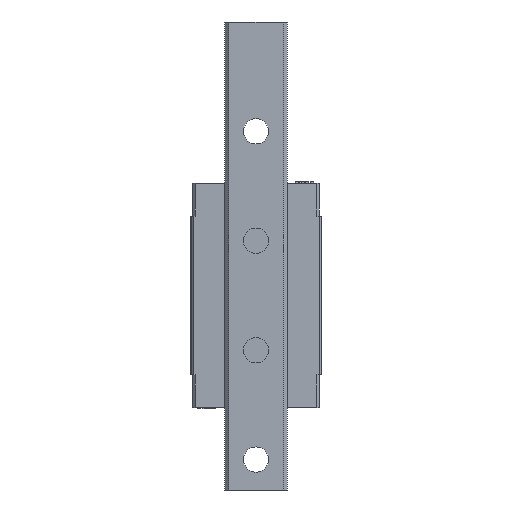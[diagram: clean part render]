
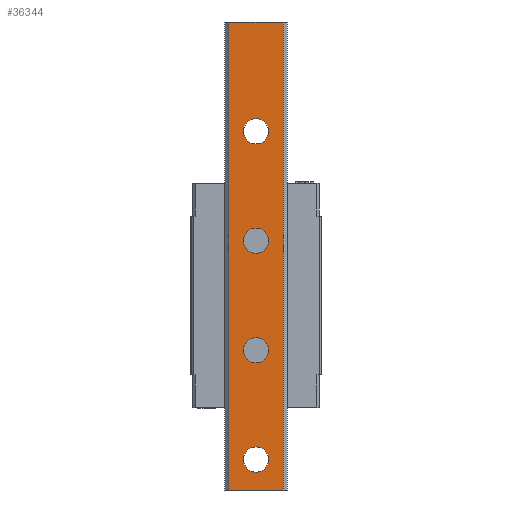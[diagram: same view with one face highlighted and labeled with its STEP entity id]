
A CAD part, front view. The second image highlights one B-rep face of the part: STEP entity #36344.
In plain terms, the highlighted planar face has unit normal (0, -1, 0).
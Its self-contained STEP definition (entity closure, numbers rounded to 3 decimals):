
#490 = VERTEX_POINT ( 'NONE', #6304 ) ;
#665 = EDGE_CURVE ( 'NONE', #8861, #45837, #6081, .T. ) ;
#1372 = DIRECTION ( 'NONE',  ( 0., -1., 0. ) ) ;
#1595 = EDGE_CURVE ( 'NONE', #490, #31680, #28425, .T. ) ;
#1621 = FACE_BOUND ( 'NONE', #22356, .T. ) ;
#2058 = DIRECTION ( 'NONE',  ( 0., 0., -1. ) ) ;
#2869 = DIRECTION ( 'NONE',  ( 0., 1., 0. ) ) ;
#3517 = ORIENTED_EDGE ( 'NONE', *, *, #19787, .T. ) ;
#4322 = CARTESIAN_POINT ( 'NONE',  ( 0., -22., 35.61 ) ) ;
#4765 = DIRECTION ( 'NONE',  ( 0., 0., 1. ) ) ;
#4778 = DIRECTION ( 'NONE',  ( 0., 1., 0. ) ) ;
#5322 = EDGE_LOOP ( 'NONE', ( #29104, #3517 ) ) ;
#5519 = CARTESIAN_POINT ( 'NONE',  ( 0., -22., -44.39 ) ) ;
#5798 = PLANE ( 'NONE',  #13979 ) ;
#5827 = ORIENTED_EDGE ( 'NONE', *, *, #23751, .T. ) ;
#6081 = CIRCLE ( 'NONE', #36777, 4.61 ) ;
#6157 = DIRECTION ( 'NONE',  ( 0., 0., 1. ) ) ;
#6304 = CARTESIAN_POINT ( 'NONE',  ( 10., -22., 71. ) ) ;
#6786 = VERTEX_POINT ( 'NONE', #22234 ) ;
#7937 = DIRECTION ( 'NONE',  ( 0., 0., 1. ) ) ;
#8139 = CARTESIAN_POINT ( 'NONE',  ( 0., -22., 31. ) ) ;
#8457 = LINE ( 'NONE', #22737, #45957 ) ;
#8620 = FACE_OUTER_BOUND ( 'NONE', #25103, .T. ) ;
#8861 = VERTEX_POINT ( 'NONE', #4322 ) ;
#10120 = DIRECTION ( 'NONE',  ( 0., 0., 1. ) ) ;
#10409 = CIRCLE ( 'NONE', #40391, 4.61 ) ;
#11090 = CARTESIAN_POINT ( 'NONE',  ( 0., -22., -9. ) ) ;
#11435 = CARTESIAN_POINT ( 'NONE',  ( 0., -22., -9. ) ) ;
#11442 = CARTESIAN_POINT ( 'NONE',  ( -10., -22., 71. ) ) ;
#12611 = ORIENTED_EDGE ( 'NONE', *, *, #16106, .T. ) ;
#13119 = ORIENTED_EDGE ( 'NONE', *, *, #1595, .T. ) ;
#13393 = CARTESIAN_POINT ( 'NONE',  ( 0., -22., -89. ) ) ;
#13715 = EDGE_CURVE ( 'NONE', #31680, #40574, #8457, .T. ) ;
#13865 = CARTESIAN_POINT ( 'NONE',  ( 0., -22., -49. ) ) ;
#13972 = DIRECTION ( 'NONE',  ( 0., 1., 0. ) ) ;
#13979 = AXIS2_PLACEMENT_3D ( 'NONE', #20046, #1372, #2058 ) ;
#14287 = CARTESIAN_POINT ( 'NONE',  ( 0., -22., -93.61 ) ) ;
#14347 = AXIS2_PLACEMENT_3D ( 'NONE', #13865, #2869, #6157 ) ;
#14403 = VERTEX_POINT ( 'NONE', #32455 ) ;
#15866 = FACE_BOUND ( 'NONE', #18263, .T. ) ;
#16106 = EDGE_CURVE ( 'NONE', #14403, #490, #30286, .T. ) ;
#17507 = EDGE_CURVE ( 'NONE', #30324, #36572, #37366, .T. ) ;
#17690 = CARTESIAN_POINT ( 'NONE',  ( 0., -22., -84.39 ) ) ;
#18263 = EDGE_LOOP ( 'NONE', ( #43614, #39717 ) ) ;
#18677 = DIRECTION ( 'NONE',  ( 0., 1., 0. ) ) ;
#19315 = EDGE_CURVE ( 'NONE', #36572, #30324, #23318, .T. ) ;
#19787 = EDGE_CURVE ( 'NONE', #32871, #43497, #33059, .T. ) ;
#20046 = CARTESIAN_POINT ( 'NONE',  ( -10., -22., -129. ) ) ;
#21957 = DIRECTION ( 'NONE',  ( 0., 0., 1. ) ) ;
#22234 = CARTESIAN_POINT ( 'NONE',  ( 0., -22., -4.39 ) ) ;
#22321 = LINE ( 'NONE', #36191, #35732 ) ;
#22356 = EDGE_LOOP ( 'NONE', ( #26804, #40334 ) ) ;
#22737 = CARTESIAN_POINT ( 'NONE',  ( -10., -22., -129. ) ) ;
#22855 = AXIS2_PLACEMENT_3D ( 'NONE', #28951, #43292, #32517 ) ;
#23318 = CIRCLE ( 'NONE', #14347, 4.61 ) ;
#23751 = EDGE_CURVE ( 'NONE', #30233, #6786, #10409, .T. ) ;
#24013 = AXIS2_PLACEMENT_3D ( 'NONE', #29977, #26910, #7937 ) ;
#24025 = ORIENTED_EDGE ( 'NONE', *, *, #13715, .T. ) ;
#24366 = CIRCLE ( 'NONE', #22855, 4.61 ) ;
#24460 = AXIS2_PLACEMENT_3D ( 'NONE', #11090, #4778, #43704 ) ;
#24467 = EDGE_CURVE ( 'NONE', #43497, #32871, #38956, .T. ) ;
#25103 = EDGE_LOOP ( 'NONE', ( #44610, #12611, #13119, #24025 ) ) ;
#25378 = DIRECTION ( 'NONE',  ( 1., 0., 0. ) ) ;
#26554 = CARTESIAN_POINT ( 'NONE',  ( -10., -22., -100.138 ) ) ;
#26804 = ORIENTED_EDGE ( 'NONE', *, *, #19315, .T. ) ;
#26910 = DIRECTION ( 'NONE',  ( 0., 1., 0. ) ) ;
#28425 = LINE ( 'NONE', #38999, #29726 ) ;
#28951 = CARTESIAN_POINT ( 'NONE',  ( 0., -22., 31. ) ) ;
#29104 = ORIENTED_EDGE ( 'NONE', *, *, #24467, .T. ) ;
#29221 = DIRECTION ( 'NONE',  ( 0., 1., 0. ) ) ;
#29726 = VECTOR ( 'NONE', #32211, 1000. ) ;
#29977 = CARTESIAN_POINT ( 'NONE',  ( 0., -22., -89. ) ) ;
#30233 = VERTEX_POINT ( 'NONE', #40134 ) ;
#30286 = LINE ( 'NONE', #44373, #37064 ) ;
#30324 = VERTEX_POINT ( 'NONE', #35676 ) ;
#31205 = EDGE_LOOP ( 'NONE', ( #39077, #5827 ) ) ;
#31680 = VERTEX_POINT ( 'NONE', #11442 ) ;
#32211 = DIRECTION ( 'NONE',  ( -1., 0., 0. ) ) ;
#32455 = CARTESIAN_POINT ( 'NONE',  ( 10., -22., -100.138 ) ) ;
#32517 = DIRECTION ( 'NONE',  ( 0., 0., 1. ) ) ;
#32651 = EDGE_CURVE ( 'NONE', #45837, #8861, #24366, .T. ) ;
#32871 = VERTEX_POINT ( 'NONE', #14287 ) ;
#33059 = CIRCLE ( 'NONE', #24013, 4.61 ) ;
#33634 = AXIS2_PLACEMENT_3D ( 'NONE', #46086, #13972, #46304 ) ;
#33976 = FACE_BOUND ( 'NONE', #5322, .T. ) ;
#34187 = FACE_BOUND ( 'NONE', #31205, .T. ) ;
#35676 = CARTESIAN_POINT ( 'NONE',  ( 0., -22., -53.61 ) ) ;
#35732 = VECTOR ( 'NONE', #25378, 1000. ) ;
#36191 = CARTESIAN_POINT ( 'NONE',  ( -10., -22., -100.138 ) ) ;
#36344 = ADVANCED_FACE ( 'NONE', ( #33976, #34187, #1621, #15866, #8620 ), #5798, .T. ) ;
#36479 = CARTESIAN_POINT ( 'NONE',  ( 0., -22., 26.39 ) ) ;
#36572 = VERTEX_POINT ( 'NONE', #5519 ) ;
#36604 = DIRECTION ( 'NONE',  ( 0., 0., -1. ) ) ;
#36777 = AXIS2_PLACEMENT_3D ( 'NONE', #8139, #29221, #21957 ) ;
#37064 = VECTOR ( 'NONE', #4765, 1000. ) ;
#37366 = CIRCLE ( 'NONE', #33634, 4.61 ) ;
#37534 = EDGE_CURVE ( 'NONE', #40574, #14403, #22321, .T. ) ;
#38226 = AXIS2_PLACEMENT_3D ( 'NONE', #13393, #42272, #10120 ) ;
#38956 = CIRCLE ( 'NONE', #38226, 4.61 ) ;
#38999 = CARTESIAN_POINT ( 'NONE',  ( -10., -22., 71. ) ) ;
#39077 = ORIENTED_EDGE ( 'NONE', *, *, #45977, .T. ) ;
#39717 = ORIENTED_EDGE ( 'NONE', *, *, #32651, .T. ) ;
#40134 = CARTESIAN_POINT ( 'NONE',  ( 0., -22., -13.61 ) ) ;
#40334 = ORIENTED_EDGE ( 'NONE', *, *, #17507, .T. ) ;
#40391 = AXIS2_PLACEMENT_3D ( 'NONE', #11435, #18677, #40995 ) ;
#40574 = VERTEX_POINT ( 'NONE', #26554 ) ;
#40995 = DIRECTION ( 'NONE',  ( 0., 0., 1. ) ) ;
#42272 = DIRECTION ( 'NONE',  ( 0., 1., 0. ) ) ;
#43292 = DIRECTION ( 'NONE',  ( 0., 1., 0. ) ) ;
#43497 = VERTEX_POINT ( 'NONE', #17690 ) ;
#43614 = ORIENTED_EDGE ( 'NONE', *, *, #665, .T. ) ;
#43704 = DIRECTION ( 'NONE',  ( 0., 0., 1. ) ) ;
#44373 = CARTESIAN_POINT ( 'NONE',  ( 10., -22., -129. ) ) ;
#44610 = ORIENTED_EDGE ( 'NONE', *, *, #37534, .T. ) ;
#45433 = CIRCLE ( 'NONE', #24460, 4.61 ) ;
#45837 = VERTEX_POINT ( 'NONE', #36479 ) ;
#45957 = VECTOR ( 'NONE', #36604, 1000. ) ;
#45977 = EDGE_CURVE ( 'NONE', #6786, #30233, #45433, .T. ) ;
#46086 = CARTESIAN_POINT ( 'NONE',  ( 0., -22., -49. ) ) ;
#46304 = DIRECTION ( 'NONE',  ( 0., 0., 1. ) ) ;
